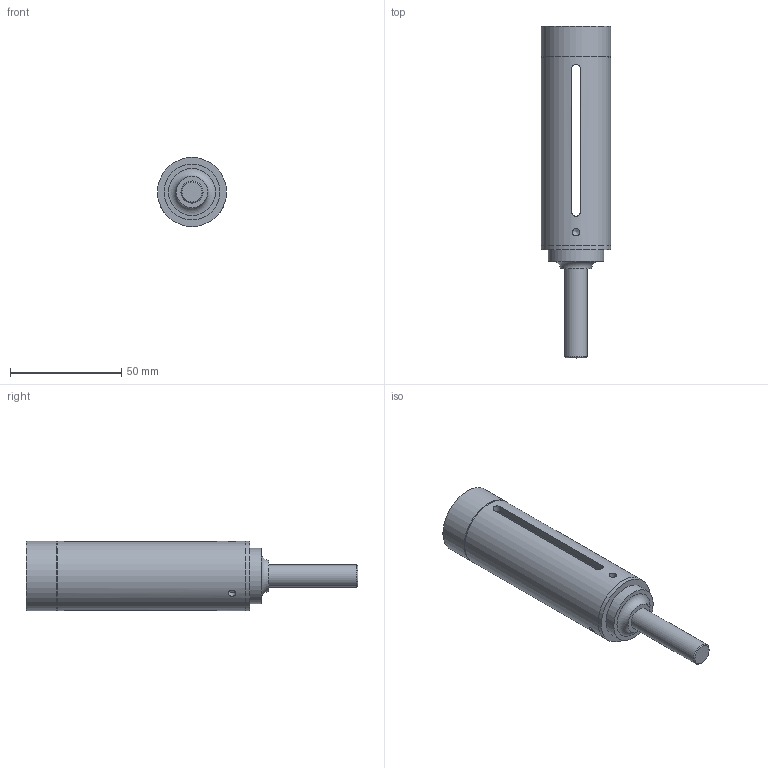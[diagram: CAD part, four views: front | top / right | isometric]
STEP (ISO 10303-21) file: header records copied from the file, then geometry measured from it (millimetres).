
FILE_DESCRIPTION(/* description */ (''),/* implementation_level */ '2;1');
FILE_NAME(/* name */ 'C:\Evgeny\Noga Works\_Noga MT Brush\solidcam\Sleeves for Face Brush D25 UF5525.stp',/* time_stamp */ '2025-03-23T09:56:21+02:00',/* author */ ('evgeny'),/* organization */ (''),/* preprocessor_version */ 'ST-DEVELOPER v20',/* originating_system */ 'Autodesk Inventor 2022',/* authorisation */ '');
FILE_SCHEMA (('AUTOMOTIVE_DESIGN { 1 0 10303 214 3 1 1 }'));
Length unit declared in the file: millimetre
Products named in the file (1): Sleeves for Face Brush D60
Bounding box: 31 x 149 x 31 mm (x, y, z)
Volume: 35745.8 mm3; surface area: 23647.9 mm2
Topology: 3 solids, 3 shells, 38 faces, 87 edges, 60 vertices
Faces by surface type: cylinder 18, plane 15, cone 3, torus 2
Full cylindrical faces by diameter (mm): 3.242 x4, 10 x2, 14 x1, 19.4 x1, 25 x1, 25.2 x2, 31 x3
Entity records: 1505 total; most frequent: CARTESIAN_POINT 562, DIRECTION 173, ORIENTED_EDGE 172, EDGE_CURVE 86, AXIS2_PLACEMENT_3D 70, VERTEX_POINT 60, EDGE_LOOP 58, FACE_OUTER_BOUND 38
